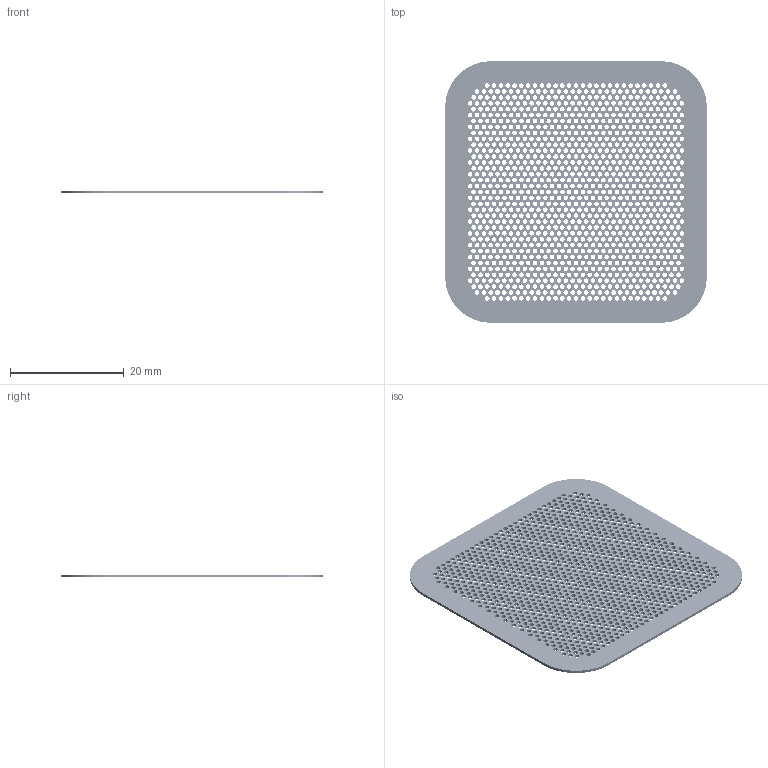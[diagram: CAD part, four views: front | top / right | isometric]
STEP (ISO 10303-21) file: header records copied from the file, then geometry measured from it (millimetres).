
FILE_DESCRIPTION(('Open CASCADE Model'),'2;1');
FILE_NAME('Grille_metal_reference','2026-09-21T22:33:45',('Author'),( 'Open CASCADE'),'Open CASCADE STEP processor 7.9','build123d', 'Unknown');
FILE_SCHEMA(('AUTOMOTIVE_DESIGN { 1 0 10303 214 1 1 1 1 }'));
Length unit declared in the file: millimetre
Products named in the file (2): Grille_metal_reference
Assembly tree (1 placements, depth 2):
  Grille_metal_reference
    Grille_metal_reference
Bounding box: 46 x 46 x 0.5 mm (x, y, z)
Volume: 740.8 mm3; surface area: 4497 mm2
Topology: 1 solids, 1 shells, 1163 faces, 3483 edges, 2322 vertices
Faces by surface type: cylinder 1157, plane 6
Full cylindrical faces by diameter (mm): 0.8 x1153
Entity records: 45315 total; most frequent: DIRECTION 8127, CARTESIAN_POINT 6970, ORIENTED_EDGE 6966, EDGE_CURVE 3483, AXIS2_PLACEMENT_3D 3479, FACE_BOUND 3469, EDGE_LOOP 3469, VERTEX_POINT 2322
